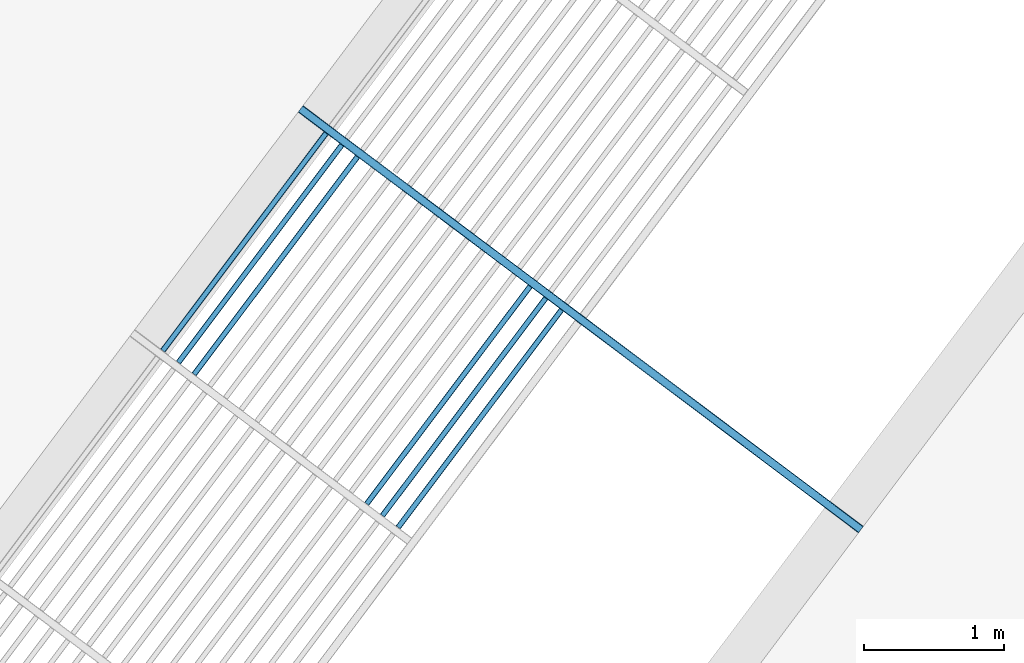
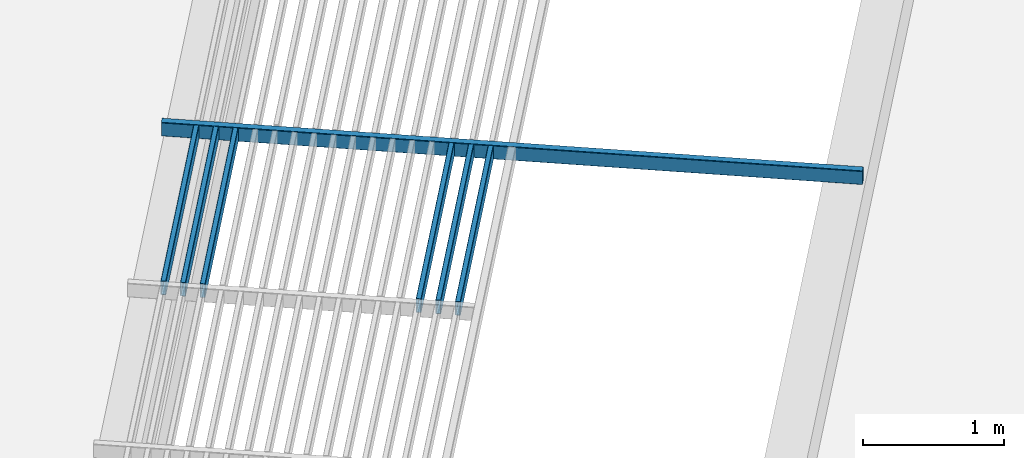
# One storey, part 44 of 95: 7 beams.
"""IFC2X3 building model written with IfcOpenShell, lengths in metres."""

import ifcopenshell
import ifcopenshell.guid

model = None  # the IFC model being written
_history = None  # IfcOwnerHistory: only IFC2X3 demands one
_inside = {}  # id of a spatial element -> (the spatial element, [elements in it])
_under = {}  # id of a project, library or spatial element -> (it, [spatial elements below it])
_declared = {}  # id of a project -> (the project, [libraries it declares])
_typed = {}  # id of a type object -> (the type object, [elements of that type])
_made_of = {}  # id of a material, layer set ... -> (it, [elements and type objects made of it])


def new_model(schema):
    """Start an empty IFC model of exactly this schema.

    Asked for "IFC4X3", IfcOpenShell would pick the latest addendum, in which some entities
    have other attributes; the version numbers below select the first issue.
    IFC2X3 requires an IfcOwnerHistory on every rooted entity: one is made here for all.
    """
    global model, _history
    if schema == "IFC4X3":
        model = ifcopenshell.file(schema_version=(4, 3, 0, 0))
    else:
        model = ifcopenshell.file(schema=schema)
    _inside.clear()
    _under.clear()
    _declared.clear()
    _typed.clear()
    _made_of.clear()
    _history = None
    if model.schema == "IFC2X3":
        org = make("IfcOrganization", Name="unknown")
        user = make(
            "IfcPersonAndOrganization",
            ThePerson=make("IfcPerson", FamilyName="unknown"),
            TheOrganization=org,
        )
        app = make(
            "IfcApplication",
            ApplicationDeveloper=org,
            Version="unknown",
            ApplicationFullName="unknown",
            ApplicationIdentifier="unknown",
        )
        _history = make(
            "IfcOwnerHistory",
            OwningUser=user,
            OwningApplication=app,
            ChangeAction="ADDED",
            CreationDate=0,
        )
    return model


def make(cls, **values):
    """One entity of the class cls with the attributes given. An attribute that is None is left unset."""
    return model.create_entity(
        cls, **{name: value for name, value in values.items() if value is not None}
    )


def entity(cls, *values):
    """Any entity or typed value of the class cls, its attributes in the order of the schema. None: left unset."""
    e = model.create_entity(cls)
    for i, value in enumerate(values):
        if value is not None:
            e[i] = value
    return e


def rooted(cls, **values):
    """An entity with a GlobalId (a new one), such as an element, a storey or a relation."""
    return make(cls, GlobalId=ifcopenshell.guid.new(), OwnerHistory=_history, **values)


def si_unit(unit_type, name, prefix=None):
    """IfcSIUnit, for example si_unit("LENGTHUNIT", "METRE", prefix="MILLI")."""
    return make("IfcSIUnit", UnitType=unit_type, Prefix=prefix, Name=name)


def converted_unit(unit_type, name, factor, base, dimensions=None, offset=None):
    """IfcConversionBasedUnit, such as the inch: factor (a typed value) times the base unit."""
    return make(
        "IfcConversionBasedUnit"
        if offset is None
        else "IfcConversionBasedUnitWithOffset",
        ConversionOffset=offset,
        Dimensions=None
        if dimensions is None
        else entity("IfcDimensionalExponents", *dimensions),
        UnitType=unit_type,
        Name=name,
        ConversionFactor=make(
            "IfcMeasureWithUnit", ValueComponent=factor, UnitComponent=base
        ),
    )


def derived_unit(unit_type, elements):
    """IfcDerivedUnit: a product of units, each with its exponent."""
    return make(
        "IfcDerivedUnit",
        Elements=[
            make("IfcDerivedUnitElement", Unit=unit, Exponent=power)
            for unit, power in elements
        ],
        UnitType=unit_type,
    )


def assignment(units):
    """IfcUnitAssignment: the units of a project."""
    return None if units is None else make("IfcUnitAssignment", Units=units)


def point(xyz):
    """IfcCartesianPoint."""
    return None if xyz is None else make("IfcCartesianPoint", Coordinates=xyz)


def direction(xyz):
    """IfcDirection."""
    return None if xyz is None else make("IfcDirection", DirectionRatios=xyz)


def frame(location, z_axis=None, x_axis=None):
    """IfcAxis2Placement3D, a coordinate frame: its origin and axes. An axis left out is left unset."""
    return make(
        "IfcAxis2Placement3D",
        Location=point(location),
        Axis=direction(z_axis),
        RefDirection=direction(x_axis),
    )


def frame_2d(location, x_axis=None):
    """IfcAxis2Placement2D, a coordinate frame in the plane: its origin and x axis."""
    return make(
        "IfcAxis2Placement2D", Location=point(location), RefDirection=direction(x_axis)
    )


def origin():
    """The frame at (0, 0, 0) with its axes left unset."""
    return frame((0.0, 0.0, 0.0))


def place(relative_to, where):
    """IfcLocalPlacement: puts the frame where relative to a parent placement (None: the world)."""
    return make(
        "IfcLocalPlacement", PlacementRelTo=relative_to, RelativePlacement=where
    )


def context(
    kind, dimensions, precision=None, world=None, true_north=None, identifier=None
):
    """IfcGeometricRepresentationContext, for example the 3D "Model" context."""
    return make(
        "IfcGeometricRepresentationContext",
        ContextIdentifier=identifier,
        ContextType=kind,
        CoordinateSpaceDimension=dimensions,
        Precision=precision,
        WorldCoordinateSystem=world,
        TrueNorth=true_north,
    )


def subcontext(parent, identifier, kind, view, scale=None):
    """IfcGeometricRepresentationSubContext, for example "Body" below "Model"."""
    return make(
        "IfcGeometricRepresentationSubContext",
        ContextIdentifier=identifier,
        ContextType=kind,
        ParentContext=parent,
        TargetScale=scale,
        TargetView=view,
    )


def project(units=None, contexts=None):
    """IfcProject with its units and contexts."""
    return rooted(
        "IfcProject",
        Name="project",
        RepresentationContexts=contexts,
        UnitsInContext=assignment(units),
    )


def spatial(cls, under=None, at=None, **own):
    """A site, building, storey or space (cls), placed at a placement, below another one or the project."""
    s = rooted(cls, ObjectPlacement=at, **own)
    if under is not None:
        _under.setdefault(under.id(), (under, []))[1].append(s)
    return s


def polyline(points):
    """IfcPolyline through the points."""
    return make("IfcPolyline", Points=[point(p) for p in points])


def circle_curve(where, radius):
    """IfcCircle in the frame where."""
    return make("IfcCircle", Position=where, Radius=radius)


def parameter(value):
    """IfcParameterValue: where a trimmed curve begins or ends, as a parameter of its basis curve."""
    return model.create_entity("IfcParameterValue", value)


def trimmed(basis, trim1, trim2, sense, master):
    """IfcTrimmedCurve: the piece of a basis curve between two trims."""
    return make(
        "IfcTrimmedCurve",
        BasisCurve=basis,
        Trim1=trim1,
        Trim2=trim2,
        SenseAgreement=sense,
        MasterRepresentation=master,
    )


def segment(curve, same_sense, transition):
    """IfcCompositeCurveSegment."""
    return make(
        "IfcCompositeCurveSegment",
        Transition=transition,
        SameSense=same_sense,
        ParentCurve=curve,
    )


def composite_curve(segments, self_intersect=None):
    """IfcCompositeCurve: segments joined end to end."""
    return make("IfcCompositeCurve", Segments=segments, SelfIntersect=self_intersect)


def outline(outer, holes=None, kind="AREA"):
    """IfcArbitraryClosedProfileDef: a profile drawn as a closed curve; with holes, ...WithVoids."""
    if holes is None:
        return make("IfcArbitraryClosedProfileDef", ProfileType=kind, OuterCurve=outer)
    return make(
        "IfcArbitraryProfileDefWithVoids",
        ProfileType=kind,
        OuterCurve=outer,
        InnerCurves=holes,
    )


def extrude(swept, where, along, depth):
    """IfcExtrudedAreaSolid: the profile swept, set in the frame where, extruded along a direction by depth."""
    return make(
        "IfcExtrudedAreaSolid",
        SweptArea=swept,
        Position=where,
        ExtrudedDirection=direction(along),
        Depth=depth,
    )


def shape(context_of_items, identifier, shape_type, items):
    """IfcShapeRepresentation: the items that make up one representation, for example the "Body"."""
    return make(
        "IfcShapeRepresentation",
        ContextOfItems=context_of_items,
        RepresentationIdentifier=identifier,
        RepresentationType=shape_type,
        Items=items,
    )


def material(Name=None, Category=None):
    """IfcMaterial."""
    return make("IfcMaterial", Name=Name, Category=Category)


def made_of(thing, what):
    """Note that an element or type object is made of a material, layer set ...; save() writes the relation."""
    if what is not None:
        _made_of.setdefault(what.id(), (what, []))[1].append(thing)
    return thing


def type_object(cls, material=None, **own):
    """A type object (cls), such as IfcWallType, which elements share."""
    return made_of(rooted(cls, **own), material)


def element(
    cls,
    number,
    at=None,
    inside=None,
    cuts=None,
    type_object=None,
    material=None,
    context=None,
    identifier="Body",
    shape_type=None,
    held_by="IfcProductDefinitionShape",
    body=None,
    shapes=None,
    **own,
):
    """One element of the class cls, such as IfcWall. Its Tag is "e" and its number.

    at: its placement. inside: the storey or other place that contains it. cuts: it is an
    opening in that element (IfcRelVoidsElement). A single representation is given by context,
    identifier, shape_type and body (its items); several are given by shapes. held_by: the class
    of the entity that holds the representations. save() writes the other relations.
    """
    e = rooted(cls, Tag="e%d" % number, ObjectPlacement=at, **own)
    if body is not None:
        shapes = [shape(context, identifier, shape_type, body)]
    if shapes is not None:
        e.Representation = make(held_by, Representations=shapes)
    if inside is not None:
        _inside.setdefault(inside.id(), (inside, []))[1].append(e)
    if cuts is not None:
        rooted(
            "IfcRelVoidsElement", RelatingBuildingElement=cuts, RelatedOpeningElement=e
        )
    if type_object is not None:
        _typed.setdefault(type_object.id(), (type_object, []))[1].append(e)
    return made_of(e, material)


def aggregate(whole, parts):
    """IfcRelAggregates: a whole, such as a stair, and the parts it consists of."""
    return rooted("IfcRelAggregates", RelatingObject=whole, RelatedObjects=parts)


def save(model, path):
    """Write the relations noted so far, then the file.

    IfcRelAggregates (storeys below a building ...), IfcRelContainedInSpatialStructure (elements
    in a storey), IfcRelDefinesByType, IfcRelAssociatesMaterial and IfcRelDeclares: one each for
    every whole, place, type object, material and project.
    """
    for whole, parts in _under.values():
        aggregate(whole, parts)
    for where, things in _inside.values():
        rooted(
            "IfcRelContainedInSpatialStructure",
            RelatedElements=things,
            RelatingStructure=where,
        )
    for kind, things in _typed.values():
        rooted("IfcRelDefinesByType", RelatedObjects=things, RelatingType=kind)
    for what, things in _made_of.values():
        rooted("IfcRelAssociatesMaterial", RelatedObjects=things, RelatingMaterial=what)
    for by, libraries in _declared.values():
        rooted("IfcRelDeclares", RelatingContext=by, RelatedDefinitions=libraries)
    model.write(path)


model = new_model("IFC2X3")

# Units and contexts
model_context = context("Model", 3, precision=1e-05, world=origin(), true_north=direction((6.123031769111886e-17, 1.0)))
body_context = subcontext(model_context, "Body", "Model", "MODEL_VIEW")
ifc_project = project(units=[si_unit("LENGTHUNIT", "METRE"), si_unit("AREAUNIT", "SQUARE_METRE"), si_unit("VOLUMEUNIT", "CUBIC_METRE"), converted_unit("PLANEANGLEUNIT", "DEGREE", entity("IfcRatioMeasure", 0.017453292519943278), si_unit("PLANEANGLEUNIT", "RADIAN"), dimensions=[0, 0, 0, 0, 0, 0, 0]), si_unit("MASSUNIT", "GRAM", prefix="KILO"), derived_unit("MASSDENSITYUNIT", [(si_unit("MASSUNIT", "GRAM", prefix="KILO"), 1), (si_unit("LENGTHUNIT", "METRE"), -3)]), derived_unit("IONCONCENTRATIONUNIT", [(si_unit("MASSUNIT", "GRAM", prefix="KILO"), 1), (si_unit("LENGTHUNIT", "METRE"), -3)]), derived_unit("MOMENTOFINERTIAUNIT", [(si_unit("LENGTHUNIT", "METRE"), 4)]), si_unit("TIMEUNIT", "SECOND"), si_unit("FREQUENCYUNIT", "HERTZ"), si_unit("THERMODYNAMICTEMPERATUREUNIT", "DEGREE_CELSIUS"), derived_unit("THERMALTRANSMITTANCEUNIT", [(si_unit("MASSUNIT", "GRAM", prefix="KILO"), 1), (si_unit("THERMODYNAMICTEMPERATUREUNIT", "KELVIN"), -1), (si_unit("TIMEUNIT", "SECOND"), -3)]), derived_unit("THERMALCONDUCTANCEUNIT", [(si_unit("MASSUNIT", "GRAM", prefix="KILO"), 1), (si_unit("THERMODYNAMICTEMPERATUREUNIT", "KELVIN"), -1), (si_unit("TIMEUNIT", "SECOND"), -3), (si_unit("LENGTHUNIT", "METRE"), 1)]), derived_unit("VOLUMETRICFLOWRATEUNIT", [(si_unit("LENGTHUNIT", "METRE"), 3), (si_unit("TIMEUNIT", "SECOND"), -1)]), derived_unit("MASSFLOWRATEUNIT", [(si_unit("MASSUNIT", "GRAM", prefix="KILO"), 1), (si_unit("TIMEUNIT", "SECOND"), -1)]), derived_unit("ROTATIONALFREQUENCYUNIT", [(si_unit("TIMEUNIT", "SECOND"), -1)]), si_unit("ELECTRICCURRENTUNIT", "AMPERE"), si_unit("ELECTRICVOLTAGEUNIT", "VOLT"), si_unit("POWERUNIT", "WATT"), si_unit("FORCEUNIT", "NEWTON", prefix="KILO"), si_unit("ILLUMINANCEUNIT", "LUX"), si_unit("LUMINOUSFLUXUNIT", "LUMEN"), si_unit("LUMINOUSINTENSITYUNIT", "CANDELA"), derived_unit("USERDEFINED", [(si_unit("MASSUNIT", "GRAM", prefix="KILO"), -1), (si_unit("LENGTHUNIT", "METRE"), -2), (si_unit("TIMEUNIT", "SECOND"), 3), (si_unit("LUMINOUSFLUXUNIT", "LUMEN"), 1)]), derived_unit("USERDEFINED", [(si_unit("MASSUNIT", "GRAM", prefix="KILO"), 1), (si_unit("TIMEUNIT", "SECOND"), -3), (si_unit("LENGTHUNIT", "METRE"), 3), (si_unit("ELECTRICCURRENTUNIT", "AMPERE"), -2)]), derived_unit("SOUNDPOWERUNIT", [(si_unit("MASSUNIT", "GRAM", prefix="KILO"), 1), (si_unit("TIMEUNIT", "SECOND"), -3), (si_unit("LENGTHUNIT", "METRE"), 2)]), derived_unit("SOUNDPRESSUREUNIT", [(si_unit("MASSUNIT", "GRAM", prefix="KILO"), 1), (si_unit("LENGTHUNIT", "METRE"), -1), (si_unit("TIMEUNIT", "SECOND"), -2)]), derived_unit("LINEARVELOCITYUNIT", [(si_unit("LENGTHUNIT", "METRE"), 1), (si_unit("TIMEUNIT", "SECOND"), -1)]), si_unit("PRESSUREUNIT", "PASCAL"), derived_unit("USERDEFINED", [(si_unit("MASSUNIT", "GRAM", prefix="KILO"), 1), (si_unit("LENGTHUNIT", "METRE"), -2), (si_unit("TIMEUNIT", "SECOND"), -2)]), derived_unit("LINEARFORCEUNIT", [(si_unit("MASSUNIT", "GRAM", prefix="KILO"), 1), (si_unit("TIMEUNIT", "SECOND"), -2)]), derived_unit("PLANARFORCEUNIT", [(si_unit("MASSUNIT", "GRAM", prefix="KILO"), 1), (si_unit("LENGTHUNIT", "METRE"), -1), (si_unit("TIMEUNIT", "SECOND"), -2)]), derived_unit("SPECIFICHEATCAPACITYUNIT", [(si_unit("THERMODYNAMICTEMPERATUREUNIT", "KELVIN"), -1), (si_unit("LENGTHUNIT", "METRE"), 2), (si_unit("TIMEUNIT", "SECOND"), -2)]), derived_unit("HEATINGVALUEUNIT", [(si_unit("LENGTHUNIT", "METRE"), 2), (si_unit("TIMEUNIT", "SECOND"), -2)]), derived_unit("VAPORPERMEABILITYUNIT", [(si_unit("LENGTHUNIT", "METRE"), -1), (si_unit("TIMEUNIT", "SECOND"), 1)]), derived_unit("DYNAMICVISCOSITYUNIT", [(si_unit("MASSUNIT", "GRAM", prefix="KILO"), 1), (si_unit("TIMEUNIT", "SECOND"), -1), (si_unit("LENGTHUNIT", "METRE"), -1)]), derived_unit("THERMALEXPANSIONCOEFFICIENTUNIT", [(si_unit("THERMODYNAMICTEMPERATUREUNIT", "KELVIN"), -1)]), derived_unit("MODULUSOFELASTICITYUNIT", [(si_unit("MASSUNIT", "GRAM", prefix="KILO"), 1), (si_unit("LENGTHUNIT", "METRE"), -1), (si_unit("TIMEUNIT", "SECOND"), -2)]), derived_unit("ISOTHERMALMOISTURECAPACITYUNIT", [(si_unit("LENGTHUNIT", "METRE"), 3), (si_unit("MASSUNIT", "GRAM", prefix="KILO"), -1)]), derived_unit("MOISTUREDIFFUSIVITYUNIT", [(si_unit("TIMEUNIT", "SECOND"), -1), (si_unit("LENGTHUNIT", "METRE"), 2)])], contexts=[model_context])

# Site, building, storey
site_placement = place(None, origin())
site = spatial("IfcSite", under=ifc_project, at=site_placement, Name="Default", CompositionType="ELEMENT")
building_placement = place(site_placement, frame((0.0, 0.0, 235.0), z_axis=(0.0, 0.0, 1.0), x_axis=(-0.7996477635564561, 0.6004693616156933, 0.0)))
building = spatial("IfcBuilding", under=site, at=building_placement, CompositionType="ELEMENT")
storey_placement = place(building_placement, frame((0.0, 0.0, 3.400000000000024)))
storey = spatial("IfcBuildingStorey", under=building, at=storey_placement, Name="PC- Coberta STR", CompositionType="ELEMENT", Elevation=3.400000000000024)

# Beams
ifc_material = material(Name="_Acer- STR")
beam_type_1 = type_object("IfcBeamType", Name="STR- V- Acer- RHS- Rectangular- T1:120x60RHS", PredefinedType="NOTDEFINED")
beam_1_placement = place(storey_placement, frame((49.04514768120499, -24.4467870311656, 0.49840472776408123), z_axis=(0.0, 0.0, 1.0), x_axis=(-1.0, 0.0, 0.0)))
element("IfcBeam", 1, at=beam_1_placement, inside=storey, type_object=beam_type_1, material=ifc_material, Name="STR- V- Acer- RHS- Rectangular- T1:120x60RHS", ObjectType="STR- V- Acer- RHS- Rectangular- T1:120x60RHS", context=body_context, shape_type="SweptSolid", body=[
    extrude(outline(composite_curve([segment(trimmed(circle_curve(frame_2d((-0.02199999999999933, -0.05200000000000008), x_axis=(1.0, 0.0)), 0.008), [parameter(180.0000000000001)], [parameter(269.99999999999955)], True, "PARAMETER"), True, "CONTINUOUS"), segment(polyline([(-0.022000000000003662, -0.05999999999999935), (0.021999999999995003, -0.05999999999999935)]), True, "CONTINUOUS"), segment(trimmed(circle_curve(frame_2d((0.021999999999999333, -0.05200000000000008), x_axis=(1.0, 0.0)), 0.008), [parameter(269.99999999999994)], [parameter(5.088887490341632e-14)], True, "PARAMETER"), True, "CONTINUOUS"), segment(polyline([(0.029999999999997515, -0.05199999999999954), (0.029999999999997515, 0.052000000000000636)]), True, "CONTINUOUS"), segment(trimmed(circle_curve(frame_2d((0.021999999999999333, 0.052000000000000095), x_axis=(1.0, 0.0)), 0.008), [parameter(359.99999999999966)], [parameter(89.99999999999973)], True, "PARAMETER"), True, "CONTINUOUS"), segment(polyline([(0.021999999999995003, 0.06000000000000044), (-0.022000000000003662, 0.06000000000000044)]), True, "CONTINUOUS"), segment(trimmed(circle_curve(frame_2d((-0.02199999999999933, 0.052000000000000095), x_axis=(1.0, 0.0)), 0.008), [parameter(90.00000000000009)], [parameter(180.00000000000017)], True, "PARAMETER"), True, "CONTINUOUS"), segment(polyline([(-0.03000000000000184, 0.052000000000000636), (-0.03000000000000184, -0.05199999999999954)]), True, "CONTINUOUS")], self_intersect=False), holes=[composite_curve([segment(polyline([(0.021999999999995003, -0.056000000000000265), (-0.022000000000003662, -0.056000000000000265)]), True, "CONTINUOUS"), segment(trimmed(circle_curve(frame_2d((-0.02199999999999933, -0.05200000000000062), x_axis=(1.0, 0.0)), 0.004), [parameter(179.99999999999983)], [parameter(269.9999999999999)], True, "PARAMETER"), False, "CONTINUOUS"), segment(polyline([(-0.02600000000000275, -0.05200000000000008), (-0.02600000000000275, 0.051999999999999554)]), True, "CONTINUOUS"), segment(trimmed(circle_curve(frame_2d((-0.02199999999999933, 0.05199999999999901), x_axis=(1.0, 0.0)), 0.004), [parameter(90.00000000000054)], [parameter(180.00000000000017)], True, "PARAMETER"), False, "CONTINUOUS"), segment(polyline([(-0.022000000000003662, 0.055999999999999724), (0.021999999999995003, 0.055999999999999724)]), True, "CONTINUOUS"), segment(trimmed(circle_curve(frame_2d((0.021999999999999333, 0.05199999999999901), x_axis=(1.0, 0.0)), 0.004), [parameter(0.0)], [parameter(90.00000000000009)], True, "PARAMETER"), False, "CONTINUOUS"), segment(polyline([(0.02599999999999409, 0.051999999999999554), (0.02599999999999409, -0.05200000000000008)]), True, "CONTINUOUS"), segment(trimmed(circle_curve(frame_2d((0.021999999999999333, -0.05200000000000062), x_axis=(1.0, 0.0)), 0.004), [parameter(270.00000000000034)], [parameter(3.5622212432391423e-13)], True, "PARAMETER"), False, "CONTINUOUS")], self_intersect=False)]), frame((-5.0, -0.03159527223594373, 0.061595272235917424), z_axis=(1.0, 0.0, 0.0), x_axis=(0.0, -1.0, 0.0)), (0.0, 0.0, 1.0), 4.999999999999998),
])
beam_type_2 = type_object("IfcBeamType", Name="STR- V- Acer- RHS- Rectangular- T1:120x40RHS -", PredefinedType="NOTDEFINED")
beam_2_placement = place(storey_placement, frame((53.773552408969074, -24.38519175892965, 0.4984047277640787), z_axis=(0.0, 0.0, 1.0), x_axis=(0.0, -1.0, 0.0)))
element("IfcBeam", 2, at=beam_2_placement, inside=storey, type_object=beam_type_2, material=ifc_material, Name="STR- V- Acer- RHS- Rectangular- T1:120x40RHS -", ObjectType="STR- V- Acer- RHS- Rectangular- T1:120x40RHS -", context=body_context, shape_type="SweptSolid", body=[
    extrude(outline(composite_curve([segment(trimmed(circle_curve(frame_2d((-0.01400000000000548, -0.053999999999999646), x_axis=(1.0, 0.0)), 0.006), [parameter(180.0000000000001)], [parameter(269.99999999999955)], True, "PARAMETER"), True, "CONTINUOUS"), segment(polyline([(-0.01400000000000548, -0.0599999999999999), (0.013999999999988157, -0.0599999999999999)]), True, "CONTINUOUS"), segment(trimmed(circle_curve(frame_2d((0.013999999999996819, -0.053999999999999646), x_axis=(1.0, 0.0)), 0.006), [parameter(269.99999999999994)], [parameter(1.0177774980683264e-13)], True, "PARAMETER"), True, "CONTINUOUS"), segment(polyline([(0.019999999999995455, -0.053999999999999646), (0.019999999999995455, 0.05400000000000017)]), True, "CONTINUOUS"), segment(trimmed(circle_curve(frame_2d((0.013999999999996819, 0.05400000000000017), x_axis=(1.0, 0.0)), 0.006), [parameter(359.9999999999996)], [parameter(89.99999999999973)], True, "PARAMETER"), True, "CONTINUOUS"), segment(polyline([(0.013999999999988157, 0.059999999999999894), (-0.01400000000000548, 0.059999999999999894)]), True, "CONTINUOUS"), segment(trimmed(circle_curve(frame_2d((-0.01400000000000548, 0.05400000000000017), x_axis=(1.0, 0.0)), 0.006), [parameter(90.00000000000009)], [parameter(180.00000000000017)], True, "PARAMETER"), True, "CONTINUOUS"), segment(polyline([(-0.02000000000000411, 0.05400000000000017), (-0.02000000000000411, -0.05400000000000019)]), True, "CONTINUOUS")], self_intersect=False), holes=[composite_curve([segment(polyline([(0.013999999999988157, -0.05700000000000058), (-0.01400000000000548, -0.05700000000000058)]), True, "CONTINUOUS"), segment(trimmed(circle_curve(frame_2d((-0.01400000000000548, -0.05400000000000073), x_axis=(1.0, 0.0)), 0.003), [parameter(179.99999999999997)], [parameter(269.9999999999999)], True, "PARAMETER"), False, "CONTINUOUS"), segment(polyline([(-0.017000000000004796, -0.05400000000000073), (-0.017000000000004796, 0.05399999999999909)]), True, "CONTINUOUS"), segment(trimmed(circle_curve(frame_2d((-0.01400000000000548, 0.05399999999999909), x_axis=(1.0, 0.0)), 0.003), [parameter(90.00000000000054)], [parameter(180.0000000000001)], True, "PARAMETER"), False, "CONTINUOUS"), segment(polyline([(-0.01400000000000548, 0.056999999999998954), (0.013999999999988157, 0.056999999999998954)]), True, "CONTINUOUS"), segment(trimmed(circle_curve(frame_2d((0.013999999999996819, 0.05399999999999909), x_axis=(1.0, 0.0)), 0.003), [parameter(0.0)], [parameter(90.00000000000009)], True, "PARAMETER"), False, "CONTINUOUS"), segment(polyline([(0.016999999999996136, 0.05399999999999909), (0.016999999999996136, -0.05400000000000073)]), True, "CONTINUOUS"), segment(trimmed(circle_curve(frame_2d((0.013999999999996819, -0.05400000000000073), x_axis=(1.0, 0.0)), 0.003), [parameter(270.00000000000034)], [parameter(3.053332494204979e-13)], True, "PARAMETER"), False, "CONTINUOUS")], self_intersect=False)]), frame((-1.9399999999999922, 0.021595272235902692, 0.06159527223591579), z_axis=(1.0, 0.0, 0.0), x_axis=(0.0, -1.0, 0.0)), (0.0, 0.0, 1.0), 1.9399999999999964),
])
beam_3_placement = place(storey_placement, frame((53.63355240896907, -24.38519175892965, 0.4984047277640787), z_axis=(0.0, 0.0, 1.0), x_axis=(0.0, -1.0, 0.0)))
element("IfcBeam", 3, at=beam_3_placement, inside=storey, type_object=beam_type_2, material=ifc_material, Name="STR- V- Acer- RHS- Rectangular- T1:120x40RHS -", ObjectType="STR- V- Acer- RHS- Rectangular- T1:120x40RHS -", context=body_context, shape_type="SweptSolid", body=[
    extrude(outline(composite_curve([segment(trimmed(circle_curve(frame_2d((-0.01400000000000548, -0.053999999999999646), x_axis=(1.0, 0.0)), 0.006), [parameter(180.0000000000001)], [parameter(269.99999999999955)], True, "PARAMETER"), True, "CONTINUOUS"), segment(polyline([(-0.01400000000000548, -0.0599999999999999), (0.013999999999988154, -0.0599999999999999)]), True, "CONTINUOUS"), segment(trimmed(circle_curve(frame_2d((0.013999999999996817, -0.053999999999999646), x_axis=(1.0, 0.0)), 0.006), [parameter(269.99999999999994)], [parameter(1.0177774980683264e-13)], True, "PARAMETER"), True, "CONTINUOUS"), segment(polyline([(0.019999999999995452, -0.053999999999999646), (0.019999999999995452, 0.05400000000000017)]), True, "CONTINUOUS"), segment(trimmed(circle_curve(frame_2d((0.013999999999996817, 0.05400000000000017), x_axis=(1.0, 0.0)), 0.006), [parameter(359.9999999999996)], [parameter(89.99999999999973)], True, "PARAMETER"), True, "CONTINUOUS"), segment(polyline([(0.013999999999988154, 0.059999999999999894), (-0.01400000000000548, 0.059999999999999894)]), True, "CONTINUOUS"), segment(trimmed(circle_curve(frame_2d((-0.01400000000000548, 0.05400000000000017), x_axis=(1.0, 0.0)), 0.006), [parameter(90.00000000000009)], [parameter(180.00000000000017)], True, "PARAMETER"), True, "CONTINUOUS"), segment(polyline([(-0.02000000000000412, 0.05400000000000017), (-0.02000000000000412, -0.05400000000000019)]), True, "CONTINUOUS")], self_intersect=False), holes=[composite_curve([segment(polyline([(0.013999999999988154, -0.05700000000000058), (-0.01400000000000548, -0.05700000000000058)]), True, "CONTINUOUS"), segment(trimmed(circle_curve(frame_2d((-0.01400000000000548, -0.05400000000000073), x_axis=(1.0, 0.0)), 0.003), [parameter(179.99999999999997)], [parameter(269.9999999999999)], True, "PARAMETER"), False, "CONTINUOUS"), segment(polyline([(-0.017000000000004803, -0.05400000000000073), (-0.017000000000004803, 0.05399999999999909)]), True, "CONTINUOUS"), segment(trimmed(circle_curve(frame_2d((-0.01400000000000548, 0.05399999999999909), x_axis=(1.0, 0.0)), 0.003), [parameter(90.00000000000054)], [parameter(180.0000000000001)], True, "PARAMETER"), False, "CONTINUOUS"), segment(polyline([(-0.01400000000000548, 0.056999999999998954), (0.013999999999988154, 0.056999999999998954)]), True, "CONTINUOUS"), segment(trimmed(circle_curve(frame_2d((0.013999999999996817, 0.05399999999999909), x_axis=(1.0, 0.0)), 0.003), [parameter(0.0)], [parameter(90.00000000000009)], True, "PARAMETER"), False, "CONTINUOUS"), segment(polyline([(0.016999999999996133, 0.05399999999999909), (0.016999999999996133, -0.05400000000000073)]), True, "CONTINUOUS"), segment(trimmed(circle_curve(frame_2d((0.013999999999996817, -0.05400000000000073), x_axis=(1.0, 0.0)), 0.003), [parameter(270.00000000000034)], [parameter(3.053332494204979e-13)], True, "PARAMETER"), False, "CONTINUOUS")], self_intersect=False)]), frame((-1.9399999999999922, 0.02159527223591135, 0.06159527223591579), z_axis=(1.0, 0.0, 0.0), x_axis=(0.0, -1.0, 0.0)), (0.0, 0.0, 1.0), 1.9399999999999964),
])
beam_4_placement = place(storey_placement, frame((53.493552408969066, -24.38519175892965, 0.4984047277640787), z_axis=(0.0, 0.0, 1.0), x_axis=(0.0, -1.0, 0.0)))
element("IfcBeam", 4, at=beam_4_placement, inside=storey, type_object=beam_type_2, material=ifc_material, Name="STR- V- Acer- RHS- Rectangular- T1:120x40RHS -", ObjectType="STR- V- Acer- RHS- Rectangular- T1:120x40RHS -", context=body_context, shape_type="SweptSolid", body=[
    extrude(outline(composite_curve([segment(trimmed(circle_curve(frame_2d((-0.01400000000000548, -0.053999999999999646), x_axis=(1.0, 0.0)), 0.006), [parameter(180.0000000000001)], [parameter(269.99999999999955)], True, "PARAMETER"), True, "CONTINUOUS"), segment(polyline([(-0.01400000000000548, -0.0599999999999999), (0.013999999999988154, -0.0599999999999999)]), True, "CONTINUOUS"), segment(trimmed(circle_curve(frame_2d((0.013999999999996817, -0.053999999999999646), x_axis=(1.0, 0.0)), 0.006), [parameter(269.99999999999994)], [parameter(1.0177774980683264e-13)], True, "PARAMETER"), True, "CONTINUOUS"), segment(polyline([(0.019999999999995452, -0.053999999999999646), (0.019999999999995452, 0.05400000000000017)]), True, "CONTINUOUS"), segment(trimmed(circle_curve(frame_2d((0.013999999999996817, 0.05400000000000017), x_axis=(1.0, 0.0)), 0.006), [parameter(359.9999999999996)], [parameter(89.99999999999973)], True, "PARAMETER"), True, "CONTINUOUS"), segment(polyline([(0.013999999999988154, 0.059999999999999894), (-0.01400000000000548, 0.059999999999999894)]), True, "CONTINUOUS"), segment(trimmed(circle_curve(frame_2d((-0.01400000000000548, 0.05400000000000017), x_axis=(1.0, 0.0)), 0.006), [parameter(90.00000000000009)], [parameter(180.00000000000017)], True, "PARAMETER"), True, "CONTINUOUS"), segment(polyline([(-0.02000000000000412, 0.05400000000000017), (-0.02000000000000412, -0.05400000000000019)]), True, "CONTINUOUS")], self_intersect=False), holes=[composite_curve([segment(polyline([(0.013999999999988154, -0.05700000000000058), (-0.01400000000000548, -0.05700000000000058)]), True, "CONTINUOUS"), segment(trimmed(circle_curve(frame_2d((-0.01400000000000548, -0.05400000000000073), x_axis=(1.0, 0.0)), 0.003), [parameter(179.99999999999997)], [parameter(269.9999999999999)], True, "PARAMETER"), False, "CONTINUOUS"), segment(polyline([(-0.017000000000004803, -0.05400000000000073), (-0.017000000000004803, 0.05399999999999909)]), True, "CONTINUOUS"), segment(trimmed(circle_curve(frame_2d((-0.01400000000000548, 0.05399999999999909), x_axis=(1.0, 0.0)), 0.003), [parameter(90.00000000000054)], [parameter(180.0000000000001)], True, "PARAMETER"), False, "CONTINUOUS"), segment(polyline([(-0.01400000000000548, 0.056999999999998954), (0.013999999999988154, 0.056999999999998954)]), True, "CONTINUOUS"), segment(trimmed(circle_curve(frame_2d((0.013999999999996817, 0.05399999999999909), x_axis=(1.0, 0.0)), 0.003), [parameter(0.0)], [parameter(90.00000000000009)], True, "PARAMETER"), False, "CONTINUOUS"), segment(polyline([(0.016999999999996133, 0.05399999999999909), (0.016999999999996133, -0.05400000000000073)]), True, "CONTINUOUS"), segment(trimmed(circle_curve(frame_2d((0.013999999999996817, -0.05400000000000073), x_axis=(1.0, 0.0)), 0.003), [parameter(270.00000000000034)], [parameter(3.053332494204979e-13)], True, "PARAMETER"), False, "CONTINUOUS")], self_intersect=False)]), frame((-1.9399999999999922, 0.02159527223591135, 0.06159527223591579), z_axis=(1.0, 0.0, 0.0), x_axis=(0.0, -1.0, 0.0)), (0.0, 0.0, 1.0), 1.9399999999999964),
])
beam_5_placement = place(storey_placement, frame((51.95355240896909, -24.38519175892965, 0.4984047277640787), z_axis=(0.0, 0.0, 1.0), x_axis=(0.0, -1.0, 0.0)))
element("IfcBeam", 5, at=beam_5_placement, inside=storey, type_object=beam_type_2, material=ifc_material, Name="STR- V- Acer- RHS- Rectangular- T1:120x40RHS -", ObjectType="STR- V- Acer- RHS- Rectangular- T1:120x40RHS -", context=body_context, shape_type="SweptSolid", body=[
    extrude(outline(composite_curve([segment(trimmed(circle_curve(frame_2d((-0.013999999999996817, -0.053999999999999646), x_axis=(1.0, 0.0)), 0.006), [parameter(180.0000000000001)], [parameter(269.99999999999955)], True, "PARAMETER"), True, "CONTINUOUS"), segment(polyline([(-0.013999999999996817, -0.0599999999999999), (0.013999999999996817, -0.0599999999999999)]), True, "CONTINUOUS"), segment(trimmed(circle_curve(frame_2d((0.01400000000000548, -0.053999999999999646), x_axis=(1.0, 0.0)), 0.006), [parameter(269.99999999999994)], [parameter(1.0177774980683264e-13)], True, "PARAMETER"), True, "CONTINUOUS"), segment(polyline([(0.020000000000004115, -0.053999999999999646), (0.020000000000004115, 0.05400000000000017)]), True, "CONTINUOUS"), segment(trimmed(circle_curve(frame_2d((0.01400000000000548, 0.05400000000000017), x_axis=(1.0, 0.0)), 0.006), [parameter(359.9999999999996)], [parameter(89.99999999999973)], True, "PARAMETER"), True, "CONTINUOUS"), segment(polyline([(0.013999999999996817, 0.059999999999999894), (-0.013999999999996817, 0.059999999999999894)]), True, "CONTINUOUS"), segment(trimmed(circle_curve(frame_2d((-0.013999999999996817, 0.05400000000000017), x_axis=(1.0, 0.0)), 0.006), [parameter(90.00000000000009)], [parameter(180.00000000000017)], True, "PARAMETER"), True, "CONTINUOUS"), segment(polyline([(-0.019999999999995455, 0.05400000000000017), (-0.019999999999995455, -0.05400000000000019)]), True, "CONTINUOUS")], self_intersect=False), holes=[composite_curve([segment(polyline([(0.013999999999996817, -0.05700000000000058), (-0.013999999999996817, -0.05700000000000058)]), True, "CONTINUOUS"), segment(trimmed(circle_curve(frame_2d((-0.013999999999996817, -0.05400000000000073), x_axis=(1.0, 0.0)), 0.003), [parameter(179.99999999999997)], [parameter(269.9999999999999)], True, "PARAMETER"), False, "CONTINUOUS"), segment(polyline([(-0.01699999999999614, -0.05400000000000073), (-0.01699999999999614, 0.05399999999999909)]), True, "CONTINUOUS"), segment(trimmed(circle_curve(frame_2d((-0.013999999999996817, 0.05399999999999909), x_axis=(1.0, 0.0)), 0.003), [parameter(90.00000000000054)], [parameter(180.0000000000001)], True, "PARAMETER"), False, "CONTINUOUS"), segment(polyline([(-0.013999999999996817, 0.056999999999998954), (0.013999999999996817, 0.056999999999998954)]), True, "CONTINUOUS"), segment(trimmed(circle_curve(frame_2d((0.01400000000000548, 0.05399999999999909), x_axis=(1.0, 0.0)), 0.003), [parameter(0.0)], [parameter(90.00000000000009)], True, "PARAMETER"), False, "CONTINUOUS"), segment(polyline([(0.017000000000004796, 0.05399999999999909), (0.017000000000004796, -0.05400000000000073)]), True, "CONTINUOUS"), segment(trimmed(circle_curve(frame_2d((0.01400000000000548, -0.05400000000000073), x_axis=(1.0, 0.0)), 0.003), [parameter(270.00000000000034)], [parameter(3.053332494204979e-13)], True, "PARAMETER"), False, "CONTINUOUS")], self_intersect=False)]), frame((-1.9399999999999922, 0.021595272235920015, 0.06159527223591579), z_axis=(1.0, 0.0, 0.0), x_axis=(0.0, -1.0, 0.0)), (0.0, 0.0, 1.0), 1.9399999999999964),
])
beam_6_placement = place(storey_placement, frame((51.81355240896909, -24.38519175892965, 0.4984047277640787), z_axis=(0.0, 0.0, 1.0), x_axis=(0.0, -1.0, 0.0)))
element("IfcBeam", 6, at=beam_6_placement, inside=storey, type_object=beam_type_2, material=ifc_material, Name="STR- V- Acer- RHS- Rectangular- T1:120x40RHS -", ObjectType="STR- V- Acer- RHS- Rectangular- T1:120x40RHS -", context=body_context, shape_type="SweptSolid", body=[
    extrude(outline(composite_curve([segment(trimmed(circle_curve(frame_2d((-0.01400000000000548, -0.053999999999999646), x_axis=(1.0, 0.0)), 0.006), [parameter(180.0000000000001)], [parameter(269.99999999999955)], True, "PARAMETER"), True, "CONTINUOUS"), segment(polyline([(-0.01400000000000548, -0.0599999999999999), (0.013999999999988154, -0.0599999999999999)]), True, "CONTINUOUS"), segment(trimmed(circle_curve(frame_2d((0.013999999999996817, -0.053999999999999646), x_axis=(1.0, 0.0)), 0.006), [parameter(269.99999999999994)], [parameter(1.0177774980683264e-13)], True, "PARAMETER"), True, "CONTINUOUS"), segment(polyline([(0.019999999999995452, -0.053999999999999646), (0.019999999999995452, 0.05400000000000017)]), True, "CONTINUOUS"), segment(trimmed(circle_curve(frame_2d((0.013999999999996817, 0.05400000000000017), x_axis=(1.0, 0.0)), 0.006), [parameter(359.9999999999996)], [parameter(89.99999999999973)], True, "PARAMETER"), True, "CONTINUOUS"), segment(polyline([(0.013999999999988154, 0.059999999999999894), (-0.01400000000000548, 0.059999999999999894)]), True, "CONTINUOUS"), segment(trimmed(circle_curve(frame_2d((-0.01400000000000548, 0.05400000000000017), x_axis=(1.0, 0.0)), 0.006), [parameter(90.00000000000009)], [parameter(180.00000000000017)], True, "PARAMETER"), True, "CONTINUOUS"), segment(polyline([(-0.02000000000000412, 0.05400000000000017), (-0.02000000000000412, -0.05400000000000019)]), True, "CONTINUOUS")], self_intersect=False), holes=[composite_curve([segment(polyline([(0.013999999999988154, -0.05700000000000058), (-0.01400000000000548, -0.05700000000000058)]), True, "CONTINUOUS"), segment(trimmed(circle_curve(frame_2d((-0.01400000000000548, -0.05400000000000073), x_axis=(1.0, 0.0)), 0.003), [parameter(179.99999999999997)], [parameter(269.9999999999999)], True, "PARAMETER"), False, "CONTINUOUS"), segment(polyline([(-0.017000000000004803, -0.05400000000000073), (-0.017000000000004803, 0.05399999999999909)]), True, "CONTINUOUS"), segment(trimmed(circle_curve(frame_2d((-0.01400000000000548, 0.05399999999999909), x_axis=(1.0, 0.0)), 0.003), [parameter(90.00000000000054)], [parameter(180.0000000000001)], True, "PARAMETER"), False, "CONTINUOUS"), segment(polyline([(-0.01400000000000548, 0.056999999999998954), (0.013999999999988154, 0.056999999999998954)]), True, "CONTINUOUS"), segment(trimmed(circle_curve(frame_2d((0.013999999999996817, 0.05399999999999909), x_axis=(1.0, 0.0)), 0.003), [parameter(0.0)], [parameter(90.00000000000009)], True, "PARAMETER"), False, "CONTINUOUS"), segment(polyline([(0.016999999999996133, 0.05399999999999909), (0.016999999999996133, -0.05400000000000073)]), True, "CONTINUOUS"), segment(trimmed(circle_curve(frame_2d((0.013999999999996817, -0.05400000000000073), x_axis=(1.0, 0.0)), 0.003), [parameter(270.00000000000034)], [parameter(3.053332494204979e-13)], True, "PARAMETER"), False, "CONTINUOUS")], self_intersect=False)]), frame((-1.9399999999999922, 0.02159527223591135, 0.06159527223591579), z_axis=(1.0, 0.0, 0.0), x_axis=(0.0, -1.0, 0.0)), (0.0, 0.0, 1.0), 1.9399999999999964),
])
beam_7_placement = place(storey_placement, frame((51.67355240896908, -24.38519175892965, 0.4984047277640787), z_axis=(0.0, 0.0, 1.0), x_axis=(0.0, -1.0, 0.0)))
element("IfcBeam", 7, at=beam_7_placement, inside=storey, type_object=beam_type_2, material=ifc_material, Name="STR- V- Acer- RHS- Rectangular- T1:120x40RHS -", ObjectType="STR- V- Acer- RHS- Rectangular- T1:120x40RHS -", context=body_context, shape_type="SweptSolid", body=[
    extrude(outline(composite_curve([segment(trimmed(circle_curve(frame_2d((-0.013999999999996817, -0.053999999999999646), x_axis=(1.0, 0.0)), 0.006), [parameter(180.0000000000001)], [parameter(269.99999999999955)], True, "PARAMETER"), True, "CONTINUOUS"), segment(polyline([(-0.013999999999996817, -0.0599999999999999), (0.013999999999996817, -0.0599999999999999)]), True, "CONTINUOUS"), segment(trimmed(circle_curve(frame_2d((0.01400000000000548, -0.053999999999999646), x_axis=(1.0, 0.0)), 0.006), [parameter(269.99999999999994)], [parameter(1.0177774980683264e-13)], True, "PARAMETER"), True, "CONTINUOUS"), segment(polyline([(0.020000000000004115, -0.053999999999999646), (0.020000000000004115, 0.05400000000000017)]), True, "CONTINUOUS"), segment(trimmed(circle_curve(frame_2d((0.01400000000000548, 0.05400000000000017), x_axis=(1.0, 0.0)), 0.006), [parameter(359.9999999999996)], [parameter(89.99999999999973)], True, "PARAMETER"), True, "CONTINUOUS"), segment(polyline([(0.013999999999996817, 0.059999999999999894), (-0.013999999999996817, 0.059999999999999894)]), True, "CONTINUOUS"), segment(trimmed(circle_curve(frame_2d((-0.013999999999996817, 0.05400000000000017), x_axis=(1.0, 0.0)), 0.006), [parameter(90.00000000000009)], [parameter(180.00000000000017)], True, "PARAMETER"), True, "CONTINUOUS"), segment(polyline([(-0.019999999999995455, 0.05400000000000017), (-0.019999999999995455, -0.05400000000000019)]), True, "CONTINUOUS")], self_intersect=False), holes=[composite_curve([segment(polyline([(0.013999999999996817, -0.05700000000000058), (-0.013999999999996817, -0.05700000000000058)]), True, "CONTINUOUS"), segment(trimmed(circle_curve(frame_2d((-0.013999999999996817, -0.05400000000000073), x_axis=(1.0, 0.0)), 0.003), [parameter(179.99999999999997)], [parameter(269.9999999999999)], True, "PARAMETER"), False, "CONTINUOUS"), segment(polyline([(-0.01699999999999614, -0.05400000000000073), (-0.01699999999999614, 0.05399999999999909)]), True, "CONTINUOUS"), segment(trimmed(circle_curve(frame_2d((-0.013999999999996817, 0.05399999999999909), x_axis=(1.0, 0.0)), 0.003), [parameter(90.00000000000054)], [parameter(180.0000000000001)], True, "PARAMETER"), False, "CONTINUOUS"), segment(polyline([(-0.013999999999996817, 0.056999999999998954), (0.013999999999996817, 0.056999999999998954)]), True, "CONTINUOUS"), segment(trimmed(circle_curve(frame_2d((0.01400000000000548, 0.05399999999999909), x_axis=(1.0, 0.0)), 0.003), [parameter(0.0)], [parameter(90.00000000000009)], True, "PARAMETER"), False, "CONTINUOUS"), segment(polyline([(0.017000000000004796, 0.05399999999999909), (0.017000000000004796, -0.05400000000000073)]), True, "CONTINUOUS"), segment(trimmed(circle_curve(frame_2d((0.01400000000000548, -0.05400000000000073), x_axis=(1.0, 0.0)), 0.003), [parameter(270.00000000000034)], [parameter(3.053332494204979e-13)], True, "PARAMETER"), False, "CONTINUOUS")], self_intersect=False)]), frame((-1.9399999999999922, 0.021595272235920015, 0.06159527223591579), z_axis=(1.0, 0.0, 0.0), x_axis=(0.0, -1.0, 0.0)), (0.0, 0.0, 1.0), 1.9399999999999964),
])

save(model, "model.ifc")
